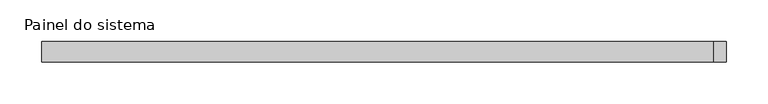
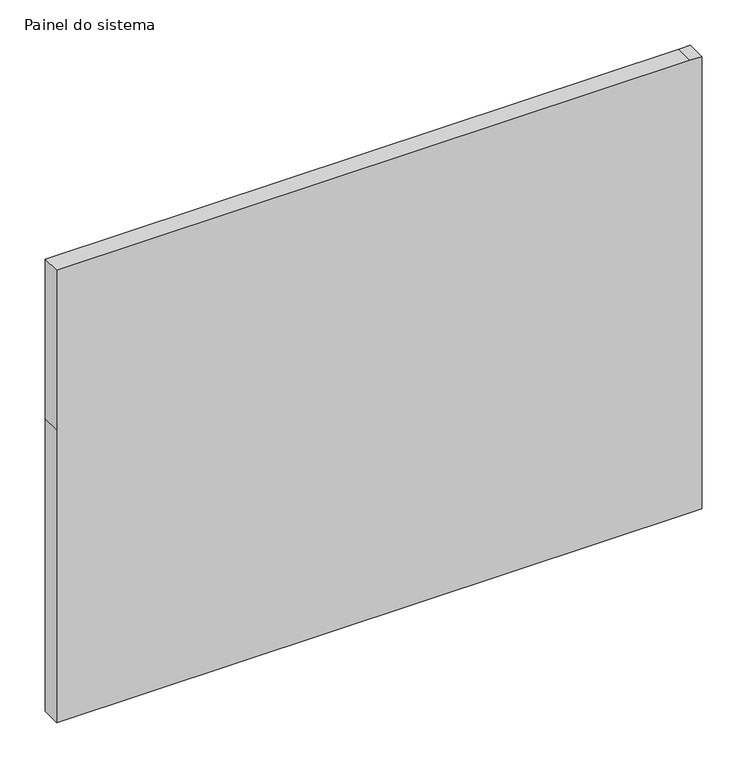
"""IFC4 building model written with IfcOpenShell, lengths in millimetres: plate geometry, Painel do sistema : Envidraçado."""

from ifc_helpers import new_model, si_unit, frame, origin, place, context, project, spatial, polyline, outline, extrude, source, transform, mapped, element, save


def painel_do_sistema_59f0205d(model_context):
    return source(origin(), model_context, "Body", "SweptSolid", [
        extrude(outline(polyline([(0.0, -411.666496), (0.0, 396.666496), (0.0, 411.666496), (395.0, 411.666496), (610.0, 411.666496), (610.0, 396.666496), (610.0, -411.666496), (395.0, -411.666496), (0.0, -411.666496)])), frame((0.0, 24.5, 0.0), z_axis=(0.0, 1.0, 0.0), x_axis=(0.0, 0.0, 1.0)), (0.0, 0.0, 1.0), 25.0),
    ])


if __name__ == "__main__":
    model = new_model("IFC4")
    model_context = context("Model", 3, world=origin())
    ifc_project = project(units=[si_unit("LENGTHUNIT", "METRE", prefix="MILLI")], contexts=[model_context])
    site = spatial("IfcSite", under=ifc_project)
    building = spatial("IfcBuilding", under=site)
    placement = place(None, origin())
    painel_do_sistema_shape = painel_do_sistema_59f0205d(model_context)
    element("IfcPlate", 1, ObjectType="Painel do sistema : Envidraçado", at=placement, inside=building, context=model_context, shape_type="MappedRepresentation", body=[
        mapped(painel_do_sistema_shape, transform((0.0, 0.0, 0.0), x_axis=(1.0, 0.0, 0.0), y_axis=(0.0, 1.0, 0.0), z_axis=(0.0, 0.0, 1.0))),
    ])
    save(model, "model.ifc")
